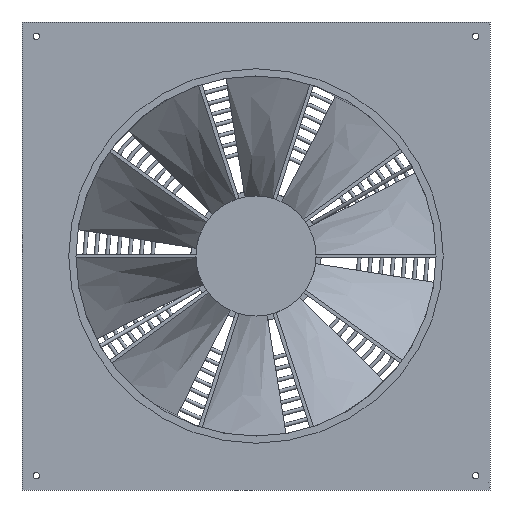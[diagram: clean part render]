
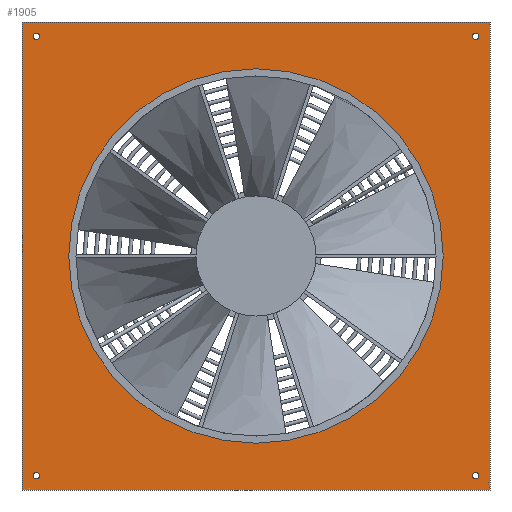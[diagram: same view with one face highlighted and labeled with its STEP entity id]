
A CAD part, front view. The second image highlights one B-rep face of the part: STEP entity #1905.
In plain terms, the highlighted planar face has unit normal (0, -1, 0).
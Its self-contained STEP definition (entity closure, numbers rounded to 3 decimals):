
#146=LINE('',#4548,#240);
#148=LINE('',#4555,#242);
#150=LINE('',#4561,#244);
#151=LINE('',#4563,#245);
#240=VECTOR('',#2416,10.);
#242=VECTOR('',#2424,10.);
#244=VECTOR('',#2430,10.);
#245=VECTOR('',#2433,10.);
#286=PLANE('',#2078);
#370=CIRCLE('',#2067,4.5);
#371=CIRCLE('',#2069,4.5);
#372=CIRCLE('',#2071,4.5);
#373=CIRCLE('',#2073,4.5);
#375=CIRCLE('',#2076,262.);
#426=FACE_BOUND('',#687,.T.);
#427=FACE_BOUND('',#688,.T.);
#428=FACE_BOUND('',#689,.T.);
#429=FACE_BOUND('',#690,.T.);
#430=FACE_BOUND('',#691,.T.);
#538=FACE_OUTER_BOUND('',#686,.T.);
#686=EDGE_LOOP('',(#1748,#1749,#1750,#1751));
#687=EDGE_LOOP('',(#1752));
#688=EDGE_LOOP('',(#1753));
#689=EDGE_LOOP('',(#1754));
#690=EDGE_LOOP('',(#1755));
#691=EDGE_LOOP('',(#1756));
#923=VERTEX_POINT('',#4545);
#924=VERTEX_POINT('',#4547);
#926=VERTEX_POINT('',#4553);
#928=VERTEX_POINT('',#4559);
#939=VERTEX_POINT('',#4697);
#940=VERTEX_POINT('',#4700);
#941=VERTEX_POINT('',#4703);
#942=VERTEX_POINT('',#4706);
#944=VERTEX_POINT('',#4711);
#1168=EDGE_CURVE('',#924,#923,#146,.T.);
#1172=EDGE_CURVE('',#923,#926,#148,.T.);
#1175=EDGE_CURVE('',#926,#928,#150,.T.);
#1176=EDGE_CURVE('',#928,#924,#151,.T.);
#1203=EDGE_CURVE('',#939,#939,#370,.T.);
#1204=EDGE_CURVE('',#940,#940,#371,.T.);
#1205=EDGE_CURVE('',#941,#941,#372,.T.);
#1206=EDGE_CURVE('',#942,#942,#373,.T.);
#1208=EDGE_CURVE('',#944,#944,#375,.T.);
#1748=ORIENTED_EDGE('',*,*,#1168,.T.);
#1749=ORIENTED_EDGE('',*,*,#1172,.T.);
#1750=ORIENTED_EDGE('',*,*,#1175,.T.);
#1751=ORIENTED_EDGE('',*,*,#1176,.T.);
#1752=ORIENTED_EDGE('',*,*,#1203,.T.);
#1753=ORIENTED_EDGE('',*,*,#1204,.T.);
#1754=ORIENTED_EDGE('',*,*,#1205,.T.);
#1755=ORIENTED_EDGE('',*,*,#1206,.T.);
#1756=ORIENTED_EDGE('',*,*,#1208,.T.);
#1905=ADVANCED_FACE('',(#538,#426,#427,#428,#429,#430),#286,.F.);
#2067=AXIS2_PLACEMENT_3D('',#4698,#2481,#2482);
#2069=AXIS2_PLACEMENT_3D('',#4701,#2485,#2486);
#2071=AXIS2_PLACEMENT_3D('',#4704,#2489,#2490);
#2073=AXIS2_PLACEMENT_3D('',#4707,#2493,#2494);
#2076=AXIS2_PLACEMENT_3D('',#4712,#2499,#2500);
#2078=AXIS2_PLACEMENT_3D('',#4714,#2503,#2504);
#2416=DIRECTION('',(1.,0.,0.));
#2424=DIRECTION('',(0.,0.,1.));
#2430=DIRECTION('',(-1.,0.,0.));
#2433=DIRECTION('',(0.,0.,-1.));
#2481=DIRECTION('center_axis',(0.,1.,0.));
#2482=DIRECTION('ref_axis',(1.,0.,0.));
#2485=DIRECTION('center_axis',(0.,1.,0.));
#2486=DIRECTION('ref_axis',(1.,0.,0.));
#2489=DIRECTION('center_axis',(0.,1.,0.));
#2490=DIRECTION('ref_axis',(1.,0.,0.));
#2493=DIRECTION('center_axis',(0.,1.,0.));
#2494=DIRECTION('ref_axis',(1.,0.,0.));
#2499=DIRECTION('center_axis',(0.,1.,0.));
#2500=DIRECTION('ref_axis',(-1.,0.,0.));
#2503=DIRECTION('center_axis',(0.,1.,0.));
#2504=DIRECTION('ref_axis',(0.,0.,1.));
#4545=CARTESIAN_POINT('',(327.5,0.,-327.5));
#4547=CARTESIAN_POINT('',(-327.5,0.,-327.5));
#4548=CARTESIAN_POINT('',(-327.5,0.,-327.5));
#4553=CARTESIAN_POINT('',(327.5,0.,327.5));
#4555=CARTESIAN_POINT('',(327.5,0.,-327.5));
#4559=CARTESIAN_POINT('',(-327.5,0.,327.5));
#4561=CARTESIAN_POINT('',(327.5,0.,327.5));
#4563=CARTESIAN_POINT('',(-327.5,0.,327.5));
#4697=CARTESIAN_POINT('',(-303.,0.,-307.5));
#4698=CARTESIAN_POINT('Origin',(-307.5,0.,-307.5));
#4700=CARTESIAN_POINT('',(312.,0.,307.5));
#4701=CARTESIAN_POINT('Origin',(307.5,0.,307.5));
#4703=CARTESIAN_POINT('',(312.,0.,-307.5));
#4704=CARTESIAN_POINT('Origin',(307.5,0.,-307.5));
#4706=CARTESIAN_POINT('',(-303.,0.,307.5));
#4707=CARTESIAN_POINT('Origin',(-307.5,0.,307.5));
#4711=CARTESIAN_POINT('',(262.,0.,0.));
#4712=CARTESIAN_POINT('Origin',(0.,0.,0.));
#4714=CARTESIAN_POINT('Origin',(0.,0.,0.));
